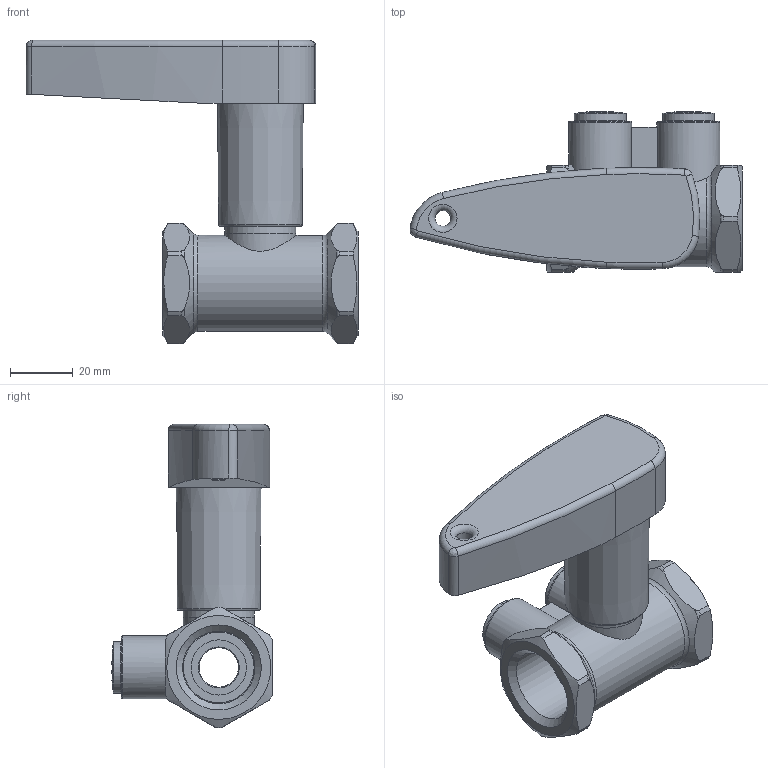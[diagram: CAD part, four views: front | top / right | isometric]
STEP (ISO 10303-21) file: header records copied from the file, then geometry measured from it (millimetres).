
FILE_DESCRIPTION(/* description */ (''),/* implementation_level */ '2;1');
FILE_NAME(/* name */ '\\dataserver\data\Nexus Valves\Inventor\2021_NexusValves Cad\3_Relax\nexus_relax_dn20.stp',/* time_stamp */ '2021-09-03T11:24:05+02:00',/* author */ ('kasius'),/* organization */ (''),/* preprocessor_version */ 'ST-DEVELOPER v17',/* originating_system */ 'Autodesk Inventor 2018',/* authorisation */ '');
FILE_SCHEMA (('AUTOMOTIVE_DESIGN { 1 0 10303 214 3 1 1 }'));
Length unit declared in the file: millimetre
Products named in the file (1): nexus_vertex_dn20
Bounding box: 105.42 x 51 x 96.41 mm (x, y, z)
Volume: 112343.2 mm3; surface area: 27047.4 mm2
Topology: 3 solids, 3 shells, 134 faces, 383 edges, 266 vertices
Faces by surface type: plane 41, cylinder 40, bspline 21, torus 17, cone 15
Full cylindrical faces by diameter (mm): 4.995 x1, 12.5 x1, 13 x1, 13.5 x3, 16.5 x2, 17.55 x1, 18 x2, 20 x2, 22.624 x1, 23 x2
Entity records: 5773 total; most frequent: CARTESIAN_POINT 2234, ORIENTED_EDGE 766, DIRECTION 735, EDGE_CURVE 383, AXIS2_PLACEMENT_3D 330, VERTEX_POINT 266, CIRCLE 211, EDGE_LOOP 149
